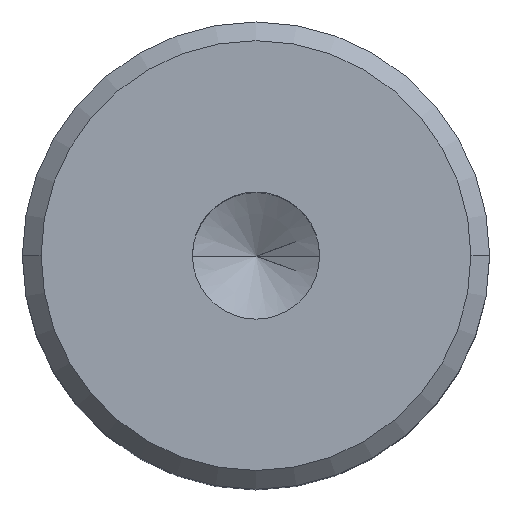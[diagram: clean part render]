
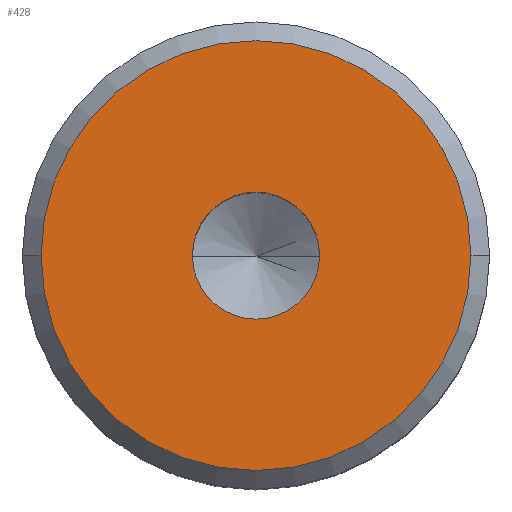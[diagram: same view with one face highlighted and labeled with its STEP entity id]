
A CAD part, top view. The second image highlights one B-rep face of the part: STEP entity #428.
In plain terms, the highlighted planar face has unit normal (0, 0, 1).
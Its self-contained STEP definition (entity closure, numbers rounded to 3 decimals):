
#8 = CARTESIAN_POINT ( 'NONE',  ( 11.5, 0., 25. ) ) ;
#42 = CIRCLE ( 'NONE', #443, 3.4 ) ;
#49 = CARTESIAN_POINT ( 'NONE',  ( -3.4, 0., 25. ) ) ;
#87 = EDGE_CURVE ( 'NONE', #229, #315, #134, .T. ) ;
#96 = AXIS2_PLACEMENT_3D ( 'NONE', #216, #219, #145 ) ;
#105 = DIRECTION ( 'NONE',  ( 1., 0., 0. ) ) ;
#107 = ORIENTED_EDGE ( 'NONE', *, *, #87, .F. ) ;
#118 = EDGE_CURVE ( 'NONE', #266, #303, #42, .T. ) ;
#134 = CIRCLE ( 'NONE', #383, 11.5 ) ;
#145 = DIRECTION ( 'NONE',  ( 1., 0., 0. ) ) ;
#168 = DIRECTION ( 'NONE',  ( -1., 0., 0. ) ) ;
#183 = DIRECTION ( 'NONE',  ( 0., 0., 1. ) ) ;
#216 = CARTESIAN_POINT ( 'NONE',  ( 0., 0., 25. ) ) ;
#219 = DIRECTION ( 'NONE',  ( 0., 0., 1. ) ) ;
#229 = VERTEX_POINT ( 'NONE', #8 ) ;
#250 = FACE_BOUND ( 'NONE', #294, .T. ) ;
#251 = DIRECTION ( 'NONE',  ( 0., 0., -1. ) ) ;
#266 = VERTEX_POINT ( 'NONE', #319 ) ;
#294 = EDGE_LOOP ( 'NONE', ( #346, #426 ) ) ;
#295 = PLANE ( 'NONE',  #420 ) ;
#303 = VERTEX_POINT ( 'NONE', #49 ) ;
#310 = DIRECTION ( 'NONE',  ( 0., 0., -1. ) ) ;
#311 = CARTESIAN_POINT ( 'NONE',  ( 0., 0., 25. ) ) ;
#315 = VERTEX_POINT ( 'NONE', #483 ) ;
#319 = CARTESIAN_POINT ( 'NONE',  ( 3.4, 0., 25. ) ) ;
#325 = EDGE_LOOP ( 'NONE', ( #107, #442 ) ) ;
#346 = ORIENTED_EDGE ( 'NONE', *, *, #118, .F. ) ;
#348 = CARTESIAN_POINT ( 'NONE',  ( 0., 0., 25. ) ) ;
#350 = DIRECTION ( 'NONE',  ( 1., 0., 0. ) ) ;
#363 = CARTESIAN_POINT ( 'NONE',  ( -14.95, -23.902, 25. ) ) ;
#381 = CIRCLE ( 'NONE', #506, 11.5 ) ;
#383 = AXIS2_PLACEMENT_3D ( 'NONE', #311, #310, #168 ) ;
#393 = DIRECTION ( 'NONE',  ( 0., 0., 1. ) ) ;
#407 = FACE_OUTER_BOUND ( 'NONE', #325, .T. ) ;
#416 = EDGE_CURVE ( 'NONE', #303, #266, #493, .T. ) ;
#420 = AXIS2_PLACEMENT_3D ( 'NONE', #363, #183, #105 ) ;
#426 = ORIENTED_EDGE ( 'NONE', *, *, #416, .F. ) ;
#428 = ADVANCED_FACE ( 'NONE', ( #250, #407 ), #295, .T. ) ;
#442 = ORIENTED_EDGE ( 'NONE', *, *, #447, .F. ) ;
#443 = AXIS2_PLACEMENT_3D ( 'NONE', #348, #393, #350 ) ;
#447 = EDGE_CURVE ( 'NONE', #315, #229, #381, .T. ) ;
#457 = CARTESIAN_POINT ( 'NONE',  ( 0., 0., 25. ) ) ;
#483 = CARTESIAN_POINT ( 'NONE',  ( -11.5, 0., 25. ) ) ;
#492 = DIRECTION ( 'NONE',  ( -1., 0., 0. ) ) ;
#493 = CIRCLE ( 'NONE', #96, 3.4 ) ;
#506 = AXIS2_PLACEMENT_3D ( 'NONE', #457, #251, #492 ) ;
